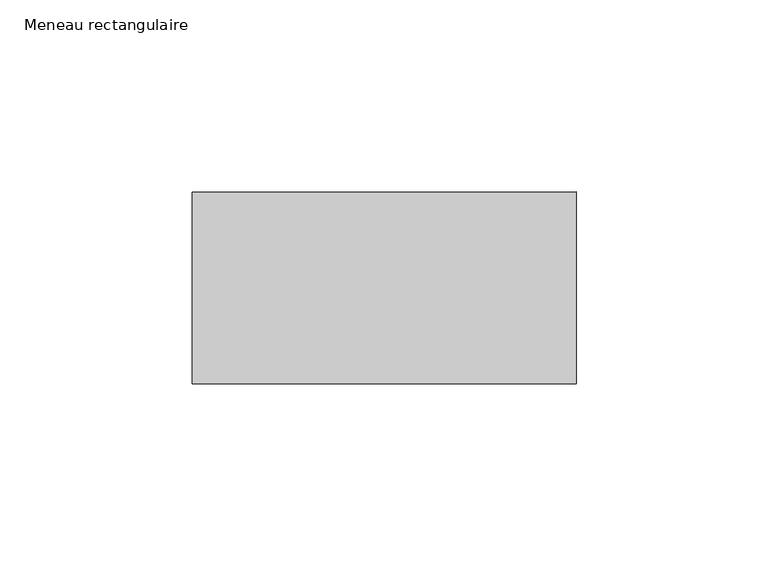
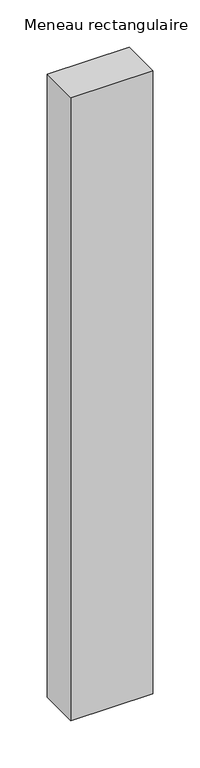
"""IFC4 building model written with IfcOpenShell, lengths in millimetres: member geometry, Meneau rectangulaire : 10x5cm aluminium laqué gris."""

from ifc_helpers import new_model, si_unit, frame, origin, place, context, project, spatial, polyline, outline, extrude, source, transform, mapped, element, save


def meneau_rectangulaire_f8ff633f(model_context):
    return source(origin(), model_context, "Body", "SweptSolid", [
        extrude(outline(polyline([(0.0, 25.0), (0.0, -25.0), (-100.0, -25.0), (-100.0, 25.0), (0.0, 25.0)])), frame((0.0, 0.0, -804.8302654), z_axis=(0.0, 0.0, 1.0), x_axis=(1.0, 0.0, 0.0)), (0.0, 0.0, 1.0), 804.8302654),
    ])


if __name__ == "__main__":
    model = new_model("IFC4")
    model_context = context("Model", 3, world=origin())
    ifc_project = project(units=[si_unit("LENGTHUNIT", "METRE", prefix="MILLI")], contexts=[model_context])
    site = spatial("IfcSite", under=ifc_project)
    building = spatial("IfcBuilding", under=site)
    placement = place(None, origin())
    meneau_rectangulaire_shape = meneau_rectangulaire_f8ff633f(model_context)
    element("IfcMember", 1, ObjectType="Meneau rectangulaire : 10x5cm aluminium laqué gris", at=placement, inside=building, context=model_context, shape_type="MappedRepresentation", body=[
        mapped(meneau_rectangulaire_shape, transform((0.0, 0.0, 0.0), x_axis=(1.0, 0.0, 0.0), y_axis=(0.0, 1.0, 0.0), z_axis=(0.0, 0.0, 1.0))),
    ])
    save(model, "model.ifc")
